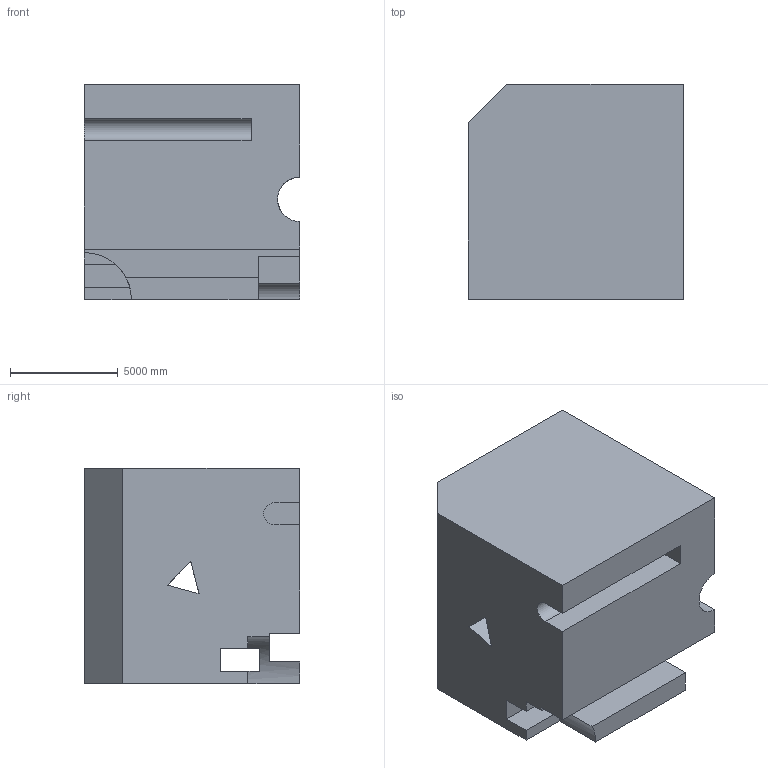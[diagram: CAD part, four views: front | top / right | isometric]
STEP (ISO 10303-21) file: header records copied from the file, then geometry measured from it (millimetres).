
FILE_DESCRIPTION (( 'STEP AP203' ), '1' );
FILE_NAME ('1862.STEP', '2022-08-19T13:39:32', ( 'user' ), ( '' ), 'SwSTEP 2.0', 'SolidWorks 2021', '' );
FILE_SCHEMA (( 'CONFIG_CONTROL_DESIGN' ));
Length unit declared in the file: centimetre
Products named in the file (1): 1862
Bounding box: 10000 x 10000 x 10000 mm (x, y, z)
Volume: 883626418376.4 mm3; surface area: 704308842 mm2
Topology: 1 solids, 1 shells, 34 faces, 102 edges, 68 vertices
Faces by surface type: plane 29, cylinder 5
Entity records: 1224 total; most frequent: CARTESIAN_POINT 214, ORIENTED_EDGE 204, DIRECTION 182, EDGE_CURVE 102, LINE 86, VECTOR 86, VERTEX_POINT 68, AXIS2_PLACEMENT_3D 48
